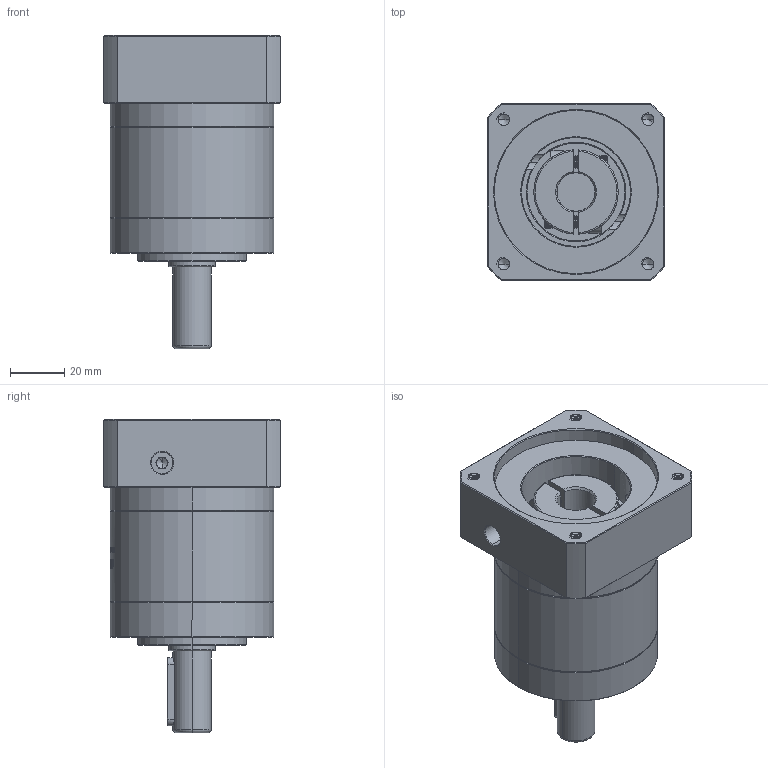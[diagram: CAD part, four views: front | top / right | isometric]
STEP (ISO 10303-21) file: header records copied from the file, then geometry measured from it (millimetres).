
FILE_DESCRIPTION (( 'STEP AP214' ), '1' );
FILE_NAME ('ZE60-D14-L1-14-60-75-M5.STEP', '2022-04-17T15:32:43', ( '' ), ( 'Microsoft' ), 'SwSTEP 2.0', 'SolidWorks 2016', '' );
FILE_SCHEMA (( 'AUTOMOTIVE_DESIGN' ));
Length unit declared in the file: millimetre
Products named in the file (1): ZE60-D14-L1-14-60-75-M5
Bounding box: 65 x 65 x 115 mm (x, y, z)
Volume: 225503.2 mm3; surface area: 45407.5 mm2
Topology: 6 solids, 6 shells, 1743 faces, 4738 edges, 3068 vertices
Faces by surface type: plane 737, cylinder 455, bspline 311, cone 220, torus 20
Entity records: 105343 total; most frequent: CARTESIAN_POINT 46706, ORIENTED_EDGE 9432, DIRECTION 6729, EDGE_CURVE 4716, VERTEX_POINT 3068, LINE 2361, VECTOR 2361, AXIS2_PLACEMENT_3D 2184
